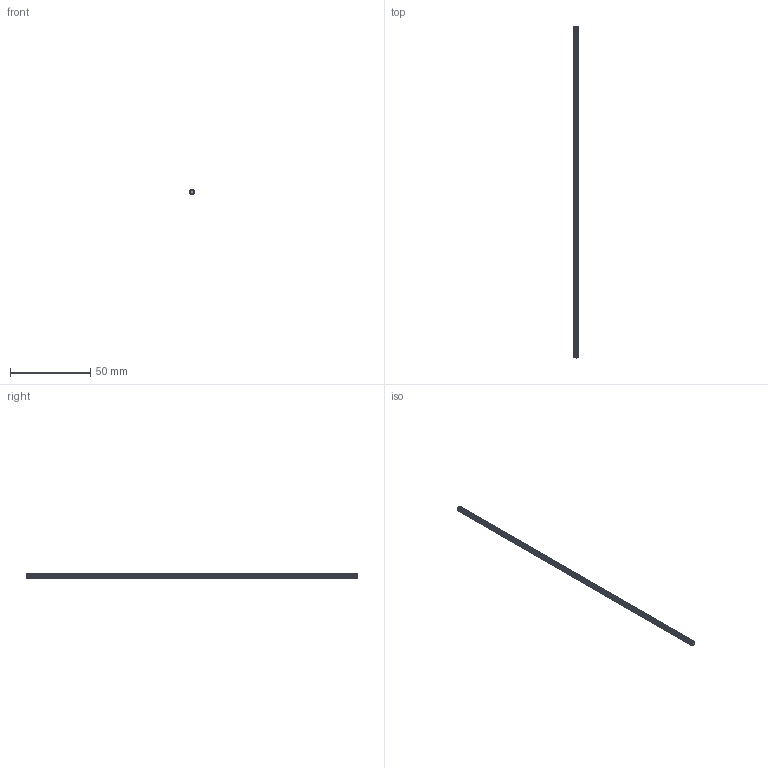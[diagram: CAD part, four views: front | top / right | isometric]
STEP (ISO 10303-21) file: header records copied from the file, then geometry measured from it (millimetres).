
FILE_DESCRIPTION (( 'STEP AP214' ), '1' );
FILE_NAME ('631-00360 M3 Threaded Rod, 2U.STEP', '2017-01-23T17:35:53', ( '' ), ( '' ), 'SwSTEP 2.0', 'SolidWorks 2014', '' );
FILE_SCHEMA (( 'AUTOMOTIVE_DESIGN' ));
Length unit declared in the file: millimetre
Products named in the file (2): 631-00360 M3 Threaded Rod, 2U
Bounding box: 3 x 206.5 x 3 mm (x, y, z)
Volume: 1078.8 mm3; surface area: 3337.8 mm2
Topology: 1 solids, 1 shells, 1654 faces, 3306 edges, 1654 vertices
Faces by surface type: cone 1652, plane 2
Entity records: 41393 total; most frequent: DIRECTION 8272, CARTESIAN_POINT 6616, ORIENTED_EDGE 6612, AXIS2_PLACEMENT_3D 3310, EDGE_CURVE 3306, CIRCLE 1654, ADVANCED_FACE 1654, FACE_OUTER_BOUND 1654
